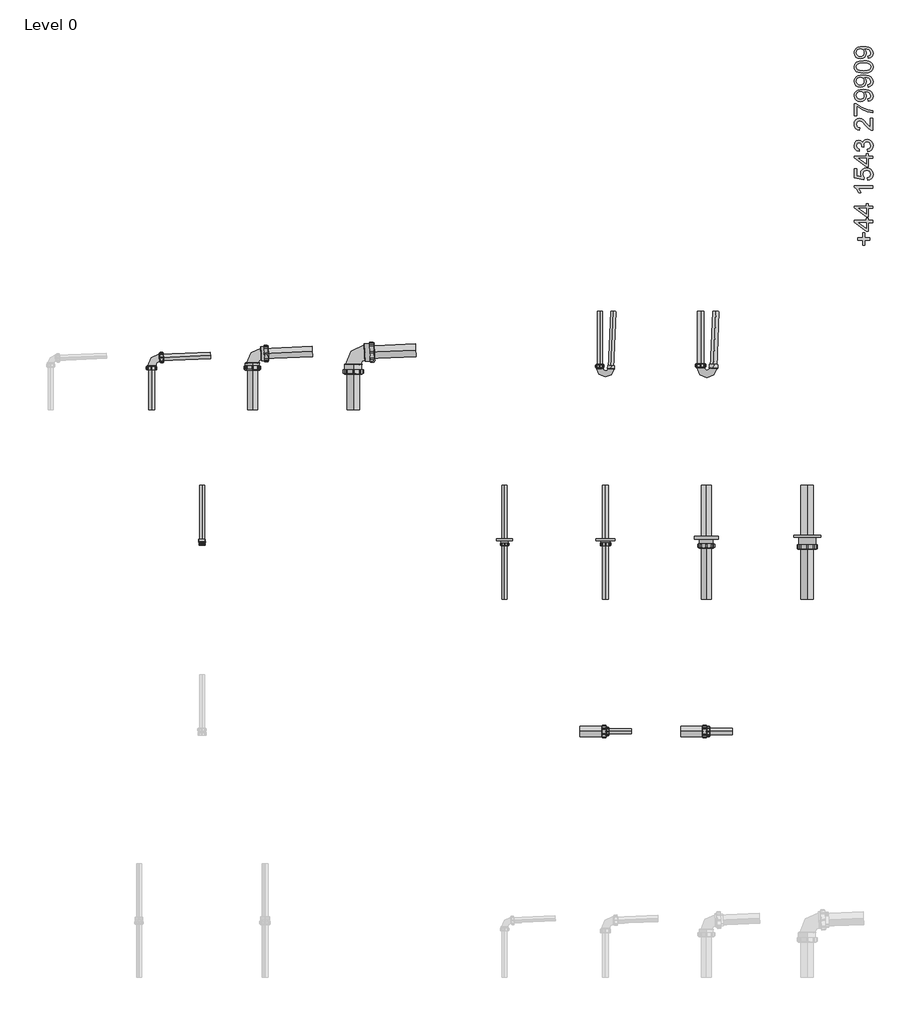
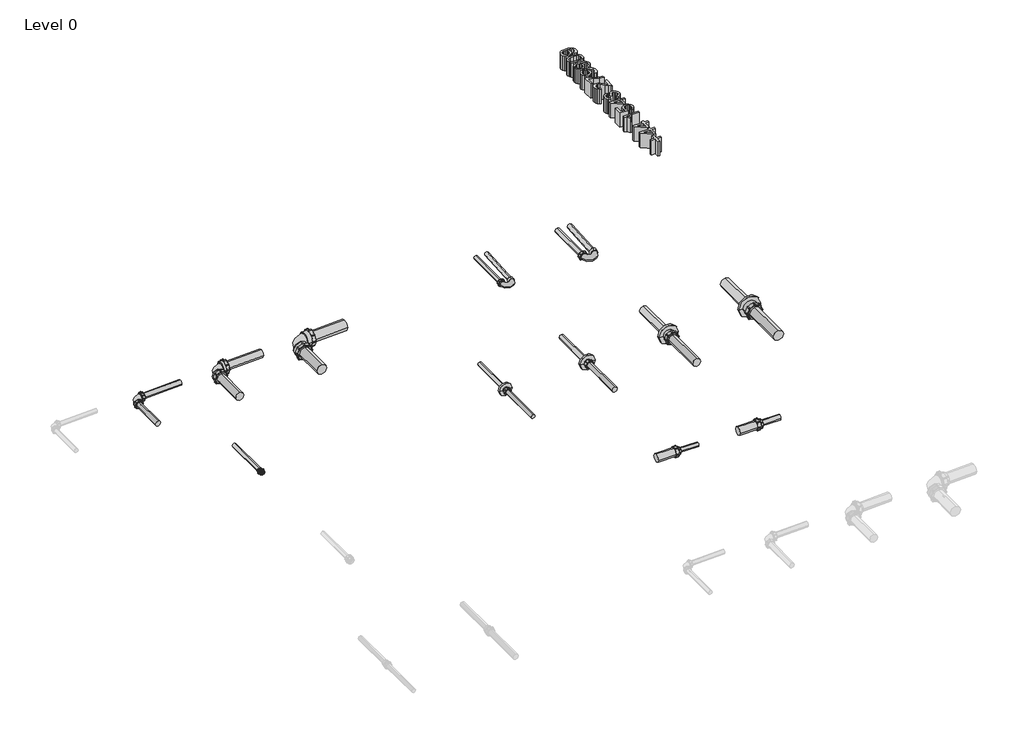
# One storey, part 5 of 5: 35 pipe fittings, 1 proxy.
"""IFC4 building model written with IfcOpenShell, lengths in millimetres."""

from ifc_helpers import new_model, si_unit, point, frame, frame_2d, origin, origin_with_axes, place, context, project, spatial, polyline, circle_curve, trimmed, segment, composite_curve, outline, extrude, transform, mapped, element, save
from components import pipe_fitting_40ecb241, w101_38mm_a402c0b6, w102_51mm_518020c9, w103_76mm_3b32ef74, w121_1_25inch_x_1_5inch_c2e79ad5, w182_2inch_51mm_1cf541ef, w183_3inch_76mm_d3d50443, w184_4inch_102mm_223b9221, w651_1_5inch_76mm_38mm_cad2a2d1, w652_2inch_76mm_51mm_e3760958, w701_1_5inch_38mm_534380e9, w702_2inch_51mm_fe70e554

model = new_model("IFC4")

# Units and contexts
model_context = context("Model", 3, world=origin())
ifc_project = project(units=[si_unit("LENGTHUNIT", "METRE", prefix="MILLI")], contexts=[model_context])

# Site, building, storey
site = spatial("IfcSite", under=ifc_project)
building = spatial("IfcBuilding", under=site)
storey = spatial("IfcBuildingStorey", under=building, Name="Level 0", Elevation=0.0)

# Proxy
placement = place(None, origin())
element("IfcBuildingElementProxy", 1, Name="100mm Arial", ObjectType="100mm Arial", at=placement, inside=storey, context=model_context, shape_type="SweptSolid", body=[
    extrude(outline(polyline([(-5961.0563059, 12559.4755371), (-6000.2870751, 12559.4755371), (-6000.2870751, 12520.2447679), (-6018.7486136, 12520.2447679), (-6018.7486136, 12559.4755371), (-6057.9793828, 12559.4755371), (-6057.9793828, 12577.9370756), (-6018.7486136, 12577.9370756), (-6018.7486136, 12617.1678448), (-6000.2870751, 12617.1678448), (-6000.2870751, 12577.9370756), (-5961.0563059, 12577.9370756), (-5961.0563059, 12559.4755371)])), origin_with_axes(), (0.0, 0.0, 1.0), 150.0),
    extrude(outline(polyline([(-5937.9793828, 12697.9370756), (-5972.5947675, 12697.9370756), (-5972.5947675, 12631.0139986), (-5991.0563059, 12631.0139986), (-6083.3639982, 12702.5524602), (-6083.3639982, 12716.398614), (-5991.0563059, 12716.398614), (-5991.0563059, 12734.8601525), (-5972.5947675, 12734.8601525), (-5972.5947675, 12716.398614), (-5937.9793828, 12716.398614), (-5937.9793828, 12697.9370756)]), holes=[polyline([(-5991.0563059, 12697.9370756), (-6048.0995751, 12697.9370756), (-5991.0563059, 12653.7303448), (-5991.0563059, 12697.9370756)])]), origin_with_axes(), (0.0, 0.0, 1.0), 150.0),
    extrude(outline(polyline([(-5937.9793828, 12811.0139986), (-5972.5947675, 12811.0139986), (-5972.5947675, 12744.0909217), (-5991.0563059, 12744.0909217), (-6083.3639982, 12815.6293833), (-6083.3639982, 12829.4755371), (-5991.0563059, 12829.4755371), (-5991.0563059, 12847.9370756), (-5972.5947675, 12847.9370756), (-5972.5947675, 12829.4755371), (-5937.9793828, 12829.4755371), (-5937.9793828, 12811.0139986)]), holes=[polyline([(-5991.0563059, 12811.0139986), (-6048.0995751, 12811.0139986), (-5991.0563059, 12766.8072679), (-5991.0563059, 12811.0139986)])]), origin_with_axes(), (0.0, 0.0, 1.0), 150.0),
    extrude(outline(polyline([(-5937.9793828, 12991.0139986), (-5937.9793828, 12972.5524602), (-6053.0755367, 12972.5524602), (-6040.617604, 12955.0644794), (-6031.2966905, 12935.6293833), (-6048.7486136, 12935.6293833), (-6066.0202482, 12962.6906813), (-6085.6716905, 12979.1149602), (-6085.6716905, 12991.0139986), (-5937.9793828, 12991.0139986)])), origin_with_axes(), (0.0, 0.0, 1.0), 150.0),
    extrude(outline(polyline([(-5977.2101521, 13034.8601525), (-5979.5178444, 13053.3216909), (-5968.4346112, 13056.711114), (-5960.4974117, 13062.6245756), (-5955.7242747, 13071.0350323), (-5954.133229, 13081.9154409), (-5956.3462699, 13095.148614), (-5962.9853925, 13105.0644794), (-5973.2843708, 13111.2573881), (-5986.476979, 13113.3216909), (-5998.898854, 13111.3880972), (-6008.4000559, 13105.5873159), (-6014.430705, 13095.8742751), (-6016.4409213, 13082.2039025), (-6013.2317867, 13065.9959698), (-6004.9024598, 13055.6293833), (-6007.2101521, 13037.1678448), (-6083.3639982, 13053.3216909), (-6083.3639982, 13124.8601525), (-6064.9024598, 13124.8601525), (-6064.9024598, 13068.2495756), (-6024.2293828, 13060.3529409), (-6032.2341905, 13073.5410419), (-6034.9024598, 13087.3601525), (-6031.5941665, 13104.609251), (-6021.6692867, 13118.9286621), (-6006.5430848, 13128.5695876), (-5987.6308251, 13131.7832294), (-5969.1692867, 13128.8895996), (-5953.3760175, 13120.2087102), (-5940.0977723, 13103.586114), (-5935.6716905, 13081.8433256), (-5938.515741, 13063.7108135), (-5947.0478925, 13049.2652006), (-5960.2765583, 13039.3628568), (-5977.2101521, 13034.8601525)])), origin_with_axes(), (0.0, 0.0, 1.0), 150.0),
    extrude(outline(polyline([(-5937.9793828, 13207.9370756), (-5972.5947675, 13207.9370756), (-5972.5947675, 13141.0139986), (-5991.0563059, 13141.0139986), (-6083.3639982, 13212.5524602), (-6083.3639982, 13226.398614), (-5991.0563059, 13226.398614), (-5991.0563059, 13244.8601525), (-5972.5947675, 13244.8601525), (-5972.5947675, 13226.398614), (-5937.9793828, 13226.398614), (-5937.9793828, 13207.9370756)]), holes=[polyline([(-5991.0563059, 13207.9370756), (-6048.0995751, 13207.9370756), (-5991.0563059, 13163.7303448), (-5991.0563059, 13207.9370756)])]), origin_with_axes(), (0.0, 0.0, 1.0), 150.0),
    extrude(outline(polyline([(-5977.2101521, 13261.0139986), (-5979.5178444, 13279.4755371), (-5967.9162819, 13283.6086501), (-5960.0827482, 13289.6618352), (-5955.6206088, 13297.9325683), (-5954.133229, 13308.7183256), (-5956.179503, 13321.3745756), (-5962.3183251, 13331.1462102), (-5971.476979, 13337.3932054), (-5982.5827482, 13339.4755371), (-5993.125116, 13337.4112342), (-6001.6752963, 13331.2183256), (-6007.3408612, 13321.8433256), (-6009.2293828, 13310.2327486), (-6007.2101521, 13297.2880371), (-6025.6716905, 13299.3433256), (-6025.4553444, 13302.3000563), (-6030.7558251, 13323.2495756), (-6037.4805848, 13330.226739), (-6047.0539021, 13332.5524602), (-6055.0271593, 13330.8667631), (-6061.4950078, 13325.8096717), (-6065.781366, 13318.0933256), (-6067.2101521, 13308.429864), (-6065.7678444, 13298.7483736), (-6061.4409213, 13290.8337102), (-6054.2293828, 13285.055465), (-6044.133229, 13281.7832294), (-6046.4409213, 13263.3216909), (-6063.0184453, 13268.7573881), (-6075.3952482, 13278.429864), (-6083.10258, 13291.6630371), (-6085.6716905, 13307.7808256), (-6080.6055848, 13330.0464506), (-6066.7594309, 13345.6233736), (-6048.1356328, 13351.0139986), (-6031.1164021, 13345.8938063), (-6018.8928444, 13330.7495756), (-6014.2233732, 13342.3060659), (-6006.2726521, 13350.8697679), (-5995.4733732, 13356.1702486), (-5982.258229, 13357.9370756), (-5964.2654405, 13354.4034217), (-5949.2293828, 13343.8024602), (-5939.0611136, 13327.8018592), (-5935.6716905, 13308.0692871), (-5938.5653203, 13290.2207294), (-5947.2462098, 13275.6894794), (-5960.524455, 13265.5843111), (-5977.2101521, 13261.0139986)])), origin_with_axes(), (0.0, 0.0, 1.0), 150.0),
    extrude(outline(polyline([(-5956.4409213, 13526.398614), (-5937.9793828, 13526.398614), (-5937.9793828, 13429.4755371), (-5950.7077482, 13431.4587102), (-5970.305104, 13442.6726525), (-5991.7053444, 13465.7856333), (-6022.4625559, 13497.6606333), (-6033.0635175, 13503.6371958), (-6043.3760175, 13505.6293833), (-6052.6203083, 13503.749876), (-6060.305104, 13498.1113544), (-6065.4838901, 13489.4439866), (-6067.2101521, 13478.4779409), (-6065.524455, 13466.9620155), (-6060.4673636, 13458.0152006), (-6052.4355126, 13452.2414626), (-6041.8255367, 13450.2447679), (-6044.133229, 13431.7832294), (-6061.9908011, 13436.2588905), (-6075.0346713, 13445.9358736), (-6083.0124357, 13460.3093712), (-6085.6716905, 13478.8745756), (-6082.7149598, 13497.5749962), (-6073.8447675, 13511.9214506), (-6060.5935655, 13521.0485539), (-6044.4938059, 13524.0909217), (-6026.9877963, 13520.8096717), (-6008.8868348, 13509.9022198), (-5983.5923636, 13483.4539025), (-5965.8339501, 13462.2159217), (-5956.4409213, 13453.8865948), (-5956.4409213, 13526.398614)])), origin_with_axes(), (0.0, 0.0, 1.0), 150.0),
    extrude(outline(polyline([(-6064.9024598, 13544.8601525), (-6083.3639982, 13544.8601525), (-6083.3639982, 13641.7832294), (-6068.4361136, 13641.7832294), (-6028.7185655, 13614.289239), (-5978.1115944, 13593.2495756), (-5937.9793828, 13586.398614), (-5937.9793828, 13567.9370756), (-5979.6260175, 13575.2748159), (-6026.6993348, 13595.4130371), (-6064.9024598, 13623.3216909), (-6064.9024598, 13544.8601525)])), origin_with_axes(), (0.0, 0.0, 1.0), 150.0),
    extrude(outline(polyline([(-5974.9024598, 13660.2447679), (-5977.2101521, 13678.7063063), (-5966.7308852, 13681.8613544), (-5959.5959694, 13686.9995756), (-5954.133229, 13702.7207294), (-5957.648854, 13717.6666429), (-5967.0418828, 13727.7988544), (-5983.0875559, 13733.8385179), (-6004.5058251, 13736.5067871), (-6008.1115944, 13736.398614), (-5994.1212098, 13721.632989), (-5988.7486136, 13701.3865948), (-5992.0298636, 13684.5521597), (-6001.8736136, 13670.539239), (-6017.0809453, 13661.0876164), (-6036.4529405, 13657.9370756), (-6056.4649598, 13661.2408616), (-6072.1500559, 13671.1522198), (-6082.2912819, 13686.0395395), (-6085.6716905, 13704.2712102), (-6083.742604, 13718.0407414), (-6077.9553444, 13730.5752967), (-6068.5983732, 13741.0590708), (-6055.9601521, 13748.6762583), (-6038.4902001, 13753.3141789), (-6014.6380367, 13754.8601525), (-5989.3480727, 13753.3186861), (-5969.8002963, 13748.6942871), (-5955.1112939, 13741.0275203), (-5944.3976521, 13730.3589506), (-5937.8531809, 13717.1483135), (-5935.6716905, 13701.8553448), (-5938.2453083, 13686.07109), (-5945.9661617, 13673.4779409), (-5958.3474718, 13664.6708496), (-5974.9024598, 13660.2447679)]), holes=[polyline([(-6036.8856328, 13736.398614), (-6049.3976521, 13734.4064265), (-6059.0250559, 13728.429864), (-6065.163878, 13719.1540227), (-6067.2101521, 13707.2639986), (-6065.0061256, 13694.9322679), (-6058.3940463, 13685.0524602), (-6048.2753564, 13678.5620756), (-6035.5514982, 13676.398614), (-6024.1437458, 13678.4448881), (-6015.0887578, 13684.5837102), (-6009.1798035, 13694.2201284), (-6007.2101521, 13706.7591909), (-6009.1798035, 13718.5545635), (-6015.0887578, 13728.0512583), (-6024.4772795, 13734.3117751), (-6036.8856328, 13736.398614)])]), origin_with_axes(), (0.0, 0.0, 1.0), 150.0),
    extrude(outline(polyline([(-5974.9024598, 13773.3216909), (-5977.2101521, 13791.7832294), (-5966.7308852, 13794.9382775), (-5959.5959694, 13800.0764986), (-5954.133229, 13815.7976525), (-5957.648854, 13830.7435659), (-5967.0418828, 13840.8757775), (-5983.0875559, 13846.9154409), (-6004.5058251, 13849.5837102), (-6008.1115944, 13849.4755371), (-5994.1212098, 13834.7099121), (-5988.7486136, 13814.4635179), (-5992.0298636, 13797.6290828), (-6001.8736136, 13783.6161621), (-6017.0809453, 13774.1645395), (-6036.4529405, 13771.0139986), (-6056.4649598, 13774.3177847), (-6072.1500559, 13784.2291429), (-6082.2912819, 13799.1164626), (-6085.6716905, 13817.3481333), (-6083.742604, 13831.1176645), (-6077.9553444, 13843.6522198), (-6068.5983732, 13854.1359938), (-6055.9601521, 13861.7531813), (-6038.4902001, 13866.391102), (-6014.6380367, 13867.9370756), (-5989.3480727, 13866.3956092), (-5969.8002963, 13861.7712102), (-5955.1112939, 13854.1044433), (-5944.3976521, 13843.4358736), (-5937.8531809, 13830.2252366), (-5935.6716905, 13814.9322679), (-5938.2453083, 13799.1480131), (-5945.9661617, 13786.554864), (-5958.3474718, 13777.7477727), (-5974.9024598, 13773.3216909)]), holes=[polyline([(-6036.8856328, 13849.4755371), (-6049.3976521, 13847.4833496), (-6059.0250559, 13841.5067871), (-6065.163878, 13832.2309458), (-6067.2101521, 13820.3409217), (-6065.0061256, 13808.0091909), (-6058.3940463, 13798.1293833), (-6048.2753564, 13791.6389986), (-6035.5514982, 13789.4755371), (-6024.1437458, 13791.5218111), (-6015.0887578, 13797.6606333), (-6009.1798035, 13807.2970515), (-6007.2101521, 13819.836114), (-6009.1798035, 13831.6314866), (-6015.0887578, 13841.1281813), (-6024.4772795, 13847.3886982), (-6036.8856328, 13849.4755371)])]), origin_with_axes(), (0.0, 0.0, 1.0), 150.0),
    extrude(outline(polyline([(-6010.6356328, 13884.0909217), (-6034.2759574, 13885.4475924), (-6053.1296232, 13889.5176044), (-6067.485092, 13896.2603929), (-6077.6308251, 13905.6353929), (-6083.6614742, 13917.7102126), (-6085.6716905, 13932.5524602), (-6080.9120751, 13954.1149602), (-6067.1921232, 13969.0067871), (-6045.3411617, 13977.6606333), (-6010.6356328, 13981.0139986), (-5987.1305247, 13979.6708496), (-5968.3219309, 13975.6414025), (-5953.9529405, 13968.9391789), (-5943.7666425, 13959.5777006), (-5937.6954285, 13947.4758376), (-5935.6716905, 13932.5524602), (-5939.1873155, 13913.3697679), (-5949.7341905, 13898.8024602), (-5974.7131569, 13887.7688063), (-6010.6356328, 13884.0909217)]), holes=[polyline([(-6010.6716905, 13902.5524602), (-5981.6317266, 13904.7159217), (-5964.8243348, 13911.2063063), (-5956.8060054, 13920.8697679), (-5954.133229, 13932.5524602), (-5956.8150199, 13944.2351525), (-5964.8603925, 13953.898614), (-5981.6767987, 13960.3889986), (-6010.6716905, 13962.5524602), (-6039.0581088, 13960.461114), (-6055.9962098, 13954.1870756), (-6064.4066665, 13944.5416429), (-6067.2101521, 13932.336114), (-6064.7402001, 13920.7796236), (-6057.3303444, 13911.4947679), (-6039.3375559, 13904.7880371), (-6010.6716905, 13902.5524602)])]), origin_with_axes(), (0.0, 0.0, 1.0), 150.0),
    extrude(outline(polyline([(-5974.9024598, 13999.4755371), (-5977.2101521, 14017.9370756), (-5966.7308852, 14021.0921236), (-5959.5959694, 14026.2303448), (-5954.133229, 14041.9514986), (-5957.648854, 14056.8974121), (-5967.0418828, 14067.0296236), (-5983.0875559, 14073.0692871), (-6004.5058251, 14075.7375563), (-6008.1115944, 14075.6293833), (-5994.1212098, 14060.8637583), (-5988.7486136, 14040.617364), (-5992.0298636, 14023.7829289), (-6001.8736136, 14009.7700083), (-6017.0809453, 14000.3183857), (-6036.4529405, 13997.1678448), (-6056.4649598, 14000.4716308), (-6072.1500559, 14010.382989), (-6082.2912819, 14025.2703087), (-6085.6716905, 14043.5019794), (-6083.742604, 14057.2715107), (-6077.9553444, 14069.8060659), (-6068.5983732, 14080.28984), (-6055.9601521, 14087.9070275), (-6038.4902001, 14092.5449482), (-6014.6380367, 14094.0909217), (-5989.3480727, 14092.5494554), (-5969.8002963, 14087.9250563), (-5955.1112939, 14080.2582895), (-5944.3976521, 14069.5897198), (-5937.8531809, 14056.3790828), (-5935.6716905, 14041.086114), (-5938.2453083, 14025.3018592), (-5945.9661617, 14012.7087102), (-5958.3474718, 14003.9016188), (-5974.9024598, 13999.4755371)]), holes=[polyline([(-6036.8856328, 14075.6293833), (-6049.3976521, 14073.6371958), (-6059.0250559, 14067.6606333), (-6065.163878, 14058.3847919), (-6067.2101521, 14046.4947679), (-6065.0061256, 14034.1630371), (-6058.3940463, 14024.2832294), (-6048.2753564, 14017.7928448), (-6035.5514982, 14015.6293833), (-6024.1437458, 14017.6756573), (-6015.0887578, 14023.8144794), (-6009.1798035, 14033.4508977), (-6007.2101521, 14045.9899602), (-6009.1798035, 14057.7853328), (-6015.0887578, 14067.2820275), (-6024.4772795, 14073.5425443), (-6036.8856328, 14075.6293833)])]), origin_with_axes(), (0.0, 0.0, 1.0), 150.0),
])

# Pipe fittings
element("IfcPipeFitting", 2, ObjectType="Vulcathene Mechanical Pipe", at=placement, inside=storey, context=model_context, shape_type="SweptSolid", body=[
    extrude(outline(composite_curve([segment(trimmed(circle_curve(frame_2d((0.0, -11657.9793828)), 25.0), [point((0.0, -11682.9793828))], [point((-25.0, -11657.9793828))], False, "CARTESIAN"), True, "CONTINUOUS"), segment(trimmed(circle_curve(frame_2d((0.0, -11657.9793828)), 25.0), [point((-25.0, -11657.9793828))], [point((0.0, -11632.9793828))], False, "CARTESIAN"), True, "CONTINUOUS"), segment(trimmed(circle_curve(frame_2d((0.0, -11657.9793828)), 25.0), [point((0.0, -11632.9793828))], [point((25.0, -11657.9793828))], False, "CARTESIAN"), True, "CONTINUOUS"), segment(trimmed(circle_curve(frame_2d((0.0, -11657.9793828)), 25.0), [point((25.0, -11657.9793828))], [point((0.0, -11682.9793828))], False, "CARTESIAN"), True, "CONTINUOUS")], self_intersect=False)), frame((0.0, 11214.6035033, 0.0), z_axis=(0.0, 1.0, 0.0), x_axis=(0.0, 0.0, 1.0)), (0.0, 0.0, 1.0), 345.7807587),
])
element("IfcPipeFitting", 3, ObjectType="Vulcathene Mechanical Pipe", at=placement, inside=storey, context=model_context, shape_type="SweptSolid", body=[
    extrude(outline(composite_curve([segment(trimmed(circle_curve(frame_2d((0.0, 25.0)), 25.0), [point((25.0, 25.0))], [point((0.0, 0.0))], False, "CARTESIAN"), True, "CONTINUOUS"), segment(trimmed(circle_curve(frame_2d((0.0, 25.0)), 25.0), [point((0.0, 0.0))], [point((-25.0000001, 25.0))], False, "CARTESIAN"), True, "CONTINUOUS"), segment(trimmed(circle_curve(frame_2d((0.0, 25.0)), 25.0), [point((-25.0000001, 25.0))], [point((0.0, 50.0))], False, "CARTESIAN"), True, "CONTINUOUS"), segment(trimmed(circle_curve(frame_2d((0.0, 25.0)), 25.0), [point((0.0, 50.0))], [point((25.0, 25.0))], False, "CARTESIAN"), True, "CONTINUOUS")], self_intersect=False)), frame((-11592.658587, 11628.6192555, 25.0), z_axis=(0.9990482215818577, 0.043619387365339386, 0.0), x_axis=(0.043619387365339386, -0.9990482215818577, 0.0)), (0.0, 0.0, 1.0), 401.6558449),
])
element("IfcPipeFitting", 4, ObjectType="Vulcathene Mechanical Pipe", at=placement, inside=storey, context=model_context, shape_type="SweptSolid", body=[
    extrude(outline(composite_curve([segment(trimmed(circle_curve(frame_2d((0.0, -10857.9793828)), 40.0), [point((0.0, -10897.9793828))], [point((-40.0, -10857.9793828))], False, "CARTESIAN"), True, "CONTINUOUS"), segment(trimmed(circle_curve(frame_2d((0.0, -10857.9793828)), 40.0), [point((-40.0, -10857.9793828))], [point((0.0, -10817.9793828))], False, "CARTESIAN"), True, "CONTINUOUS"), segment(trimmed(circle_curve(frame_2d((0.0, -10857.9793828)), 40.0), [point((0.0, -10817.9793828))], [point((40.0, -10857.9793828))], False, "CARTESIAN"), True, "CONTINUOUS"), segment(trimmed(circle_curve(frame_2d((0.0, -10857.9793828)), 40.0), [point((40.0, -10857.9793828))], [point((0.0, -10897.9793828))], False, "CARTESIAN"), True, "CONTINUOUS")], self_intersect=False)), frame((0.0, 11214.6035033, 0.0), z_axis=(0.0, 1.0, 0.0), x_axis=(0.0, 0.0, 1.0)), (0.0, 0.0, 1.0), 369.0340632),
])
element("IfcPipeFitting", 5, ObjectType="Vulcathene Mechanical Pipe", at=placement, inside=storey, context=model_context, shape_type="SweptSolid", body=[
    extrude(outline(composite_curve([segment(trimmed(circle_curve(frame_2d((0.0, 40.0)), 40.0), [point((40.0, 40.0))], [point((0.0, 0.0))], False, "CARTESIAN"), True, "CONTINUOUS"), segment(trimmed(circle_curve(frame_2d((0.0, 40.0)), 40.0), [point((0.0, 0.0))], [point((-40.0, 40.0))], False, "CARTESIAN"), True, "CONTINUOUS"), segment(trimmed(circle_curve(frame_2d((0.0, 40.0)), 40.0), [point((-40.0, 40.0))], [point((0.0, 80.0))], False, "CARTESIAN"), True, "CONTINUOUS"), segment(trimmed(circle_curve(frame_2d((0.0, 40.0)), 40.0), [point((0.0, 80.0))], [point((40.0, 40.0))], False, "CARTESIAN"), True, "CONTINUOUS")], self_intersect=False)), frame((-10785.4857324, 11659.3654217, 40.0), z_axis=(0.9990482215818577, 0.043619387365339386, 0.0), x_axis=(0.043619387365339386, -0.9990482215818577, 0.0)), (0.0, 0.0, 1.0), 401.8376726),
])
element("IfcPipeFitting", 6, ObjectType="Vulcathene Mechanical Pipe", at=placement, inside=storey, context=model_context, shape_type="SweptSolid", body=[
    extrude(outline(composite_curve([segment(trimmed(circle_curve(frame_2d((0.0, -10057.9793828)), 50.0), [point((0.0, -10107.9793828))], [point((-50.0, -10057.9793828))], False, "CARTESIAN"), True, "CONTINUOUS"), segment(trimmed(circle_curve(frame_2d((0.0, -10057.9793828)), 50.0), [point((-50.0, -10057.9793828))], [point((0.0, -10007.9793828))], False, "CARTESIAN"), True, "CONTINUOUS"), segment(trimmed(circle_curve(frame_2d((0.0, -10057.9793828)), 50.0), [point((0.0, -10007.9793828))], [point((50.0, -10057.9793828))], False, "CARTESIAN"), True, "CONTINUOUS"), segment(trimmed(circle_curve(frame_2d((0.0, -10057.9793828)), 50.0), [point((50.0, -10057.9793828))], [point((0.0, -10107.9793828))], False, "CARTESIAN"), True, "CONTINUOUS")], self_intersect=False)), frame((0.0, 11214.6035033, 0.0), z_axis=(0.0, 1.0, 0.0), x_axis=(0.0, 0.0, 1.0)), (0.0, 0.0, 1.0), 356.9175998),
])
element("IfcPipeFitting", 7, ObjectType="Vulcathene Mechanical Pipe", at=placement, inside=storey, context=model_context, shape_type="SweptSolid", body=[
    extrude(outline(composite_curve([segment(trimmed(circle_curve(frame_2d((0.0, 50.0)), 50.0), [point((50.0, 50.0))], [point((0.0, 0.0))], False, "CARTESIAN"), True, "CONTINUOUS"), segment(trimmed(circle_curve(frame_2d((0.0, 50.0)), 50.0), [point((0.0, 0.0))], [point((-50.0, 50.0))], False, "CARTESIAN"), True, "CONTINUOUS"), segment(trimmed(circle_curve(frame_2d((0.0, 50.0)), 50.0), [point((-50.0, 50.0))], [point((0.0, 100.0))], False, "CARTESIAN"), True, "CONTINUOUS"), segment(trimmed(circle_curve(frame_2d((0.0, 50.0)), 50.0), [point((0.0, 100.0))], [point((50.0, 50.0))], False, "CARTESIAN"), True, "CONTINUOUS")], self_intersect=False)), frame((-9964.636635, 11669.0282095, 50.0), z_axis=(0.9990482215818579, 0.04361938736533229, 0.0), x_axis=(0.04361938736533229, -0.9990482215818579, 0.0)), (0.0, 0.0, 1.0), 402.3661854),
])
element("IfcPipeFitting", 8, ObjectType="Vulcathene Mechanical Pipe", at=placement, inside=storey, context=model_context, shape_type="SweptSolid", body=[
    extrude(outline(composite_curve([segment(trimmed(circle_curve(frame_2d((0.0, -11257.9793828)), 20.0), [point((0.0, -11237.9793828))], [point((20.0, -11257.9793828))], False, "CARTESIAN"), True, "CONTINUOUS"), segment(trimmed(circle_curve(frame_2d((0.0, -11257.9793828)), 20.0), [point((20.0, -11257.9793828))], [point((0.0, -11277.9793828))], False, "CARTESIAN"), True, "CONTINUOUS"), segment(trimmed(circle_curve(frame_2d((0.0, -11257.9793828)), 20.0), [point((0.0, -11277.9793828))], [point((-20.0, -11257.9793828))], False, "CARTESIAN"), True, "CONTINUOUS"), segment(trimmed(circle_curve(frame_2d((0.0, -11257.9793828)), 20.0), [point((-20.0, -11257.9793828))], [point((0.0, -11237.9793828))], False, "CARTESIAN"), True, "CONTINUOUS")], self_intersect=False)), frame((0.0, 10186.6035033, 0.0), z_axis=(0.0, 1.0, 0.0), x_axis=(0.0, 0.0, 1.0)), (0.0, 0.0, 1.0), 428.0),
])
element("IfcPipeFitting", 9, ObjectType="Vulcathene Mechanical Pipe", at=placement, inside=storey, context=model_context, shape_type="SweptSolid", body=[
    extrude(outline(composite_curve([segment(trimmed(circle_curve(frame_2d((0.0, -8102.9793828)), 20.0), [point((0.0, -8082.9793828))], [point((20.0, -8102.9793828))], False, "CARTESIAN"), True, "CONTINUOUS"), segment(trimmed(circle_curve(frame_2d((0.0, -8102.9793828)), 20.0), [point((20.0, -8102.9793828))], [point((0.0, -8122.9793828))], False, "CARTESIAN"), True, "CONTINUOUS"), segment(trimmed(circle_curve(frame_2d((0.0, -8102.9793828)), 20.0), [point((0.0, -8122.9793828))], [point((-20.0, -8102.9793828))], False, "CARTESIAN"), True, "CONTINUOUS"), segment(trimmed(circle_curve(frame_2d((0.0, -8102.9793828)), 20.0), [point((-20.0, -8102.9793828))], [point((0.0, -8082.9793828))], False, "CARTESIAN"), True, "CONTINUOUS")], self_intersect=False)), frame((0.0, 11544.602162, 0.0), z_axis=(0.0, 1.0, 0.0), x_axis=(0.0, 0.0, 1.0)), (0.0, 0.0, 1.0), 450.0013412),
])
element("IfcPipeFitting", 10, ObjectType="Vulcathene Mechanical Pipe", at=placement, inside=storey, context=model_context, shape_type="SweptSolid", body=[
    extrude(outline(composite_curve([segment(trimmed(circle_curve(frame_2d((0.0, -7302.9793828)), 25.0), [point((0.0, -7277.9793828))], [point((25.0, -7302.9793828))], False, "CARTESIAN"), True, "CONTINUOUS"), segment(trimmed(circle_curve(frame_2d((0.0, -7302.9793828)), 25.0), [point((25.0, -7302.9793828))], [point((0.0, -7327.9793828))], False, "CARTESIAN"), True, "CONTINUOUS"), segment(trimmed(circle_curve(frame_2d((0.0, -7302.9793828)), 25.0), [point((0.0, -7327.9793828))], [point((-25.0, -7302.9793828))], False, "CARTESIAN"), True, "CONTINUOUS"), segment(trimmed(circle_curve(frame_2d((0.0, -7302.9793828)), 25.0), [point((-25.0, -7302.9793828))], [point((0.0, -7277.9793828))], False, "CARTESIAN"), True, "CONTINUOUS")], self_intersect=False)), frame((0.0, 11550.374828, 0.0), z_axis=(0.0, 1.0, 0.0), x_axis=(0.0, 0.0, 1.0)), (0.0, 0.0, 1.0), 444.2286753),
])
element("IfcPipeFitting", 11, ObjectType="Vulcathene Mechanical Pipe", at=placement, inside=storey, context=model_context, shape_type="SweptSolid", body=[
    extrude(outline(composite_curve([segment(trimmed(circle_curve(frame_2d((0.0, 20.0)), 20.0), [point((20.0000001, 20.0))], [point((0.0, 0.0))], False, "CARTESIAN"), True, "CONTINUOUS"), segment(trimmed(circle_curve(frame_2d((0.0, 20.0)), 20.0), [point((0.0, 0.0))], [point((-20.0, 20.0))], False, "CARTESIAN"), True, "CONTINUOUS"), segment(trimmed(circle_curve(frame_2d((0.0, 20.0)), 20.0), [point((-20.0, 20.0))], [point((0.0, 40.0))], False, "CARTESIAN"), True, "CONTINUOUS"), segment(trimmed(circle_curve(frame_2d((0.0, 20.0)), 20.0), [point((0.0, 40.0))], [point((20.0000001, 20.0))], False, "CARTESIAN"), True, "CONTINUOUS")], self_intersect=False)), frame((-8013.0222129, 11542.6392896, 20.0), z_axis=(0.043619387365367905, 0.9990482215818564, 0.0), x_axis=(0.9990482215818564, -0.043619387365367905, 0.0)), (0.0, 0.0, 1.0), 452.3947933),
])
element("IfcPipeFitting", 12, ObjectType="Vulcathene Mechanical Pipe", at=placement, inside=storey, context=model_context, shape_type="SweptSolid", body=[
    extrude(outline(composite_curve([segment(trimmed(circle_curve(frame_2d((0.0, 25.0)), 25.0), [point((25.0000001, 25.0))], [point((0.0, 0.0))], False, "CARTESIAN"), True, "CONTINUOUS"), segment(trimmed(circle_curve(frame_2d((0.0, 25.0)), 25.0), [point((0.0, 0.0))], [point((-25.0, 25.0))], False, "CARTESIAN"), True, "CONTINUOUS"), segment(trimmed(circle_curve(frame_2d((0.0, 25.0)), 25.0), [point((-25.0, 25.0))], [point((0.0, 50.0))], False, "CARTESIAN"), True, "CONTINUOUS"), segment(trimmed(circle_curve(frame_2d((0.0, 25.0)), 25.0), [point((0.0, 50.0))], [point((25.0000001, 25.0))], False, "CARTESIAN"), True, "CONTINUOUS")], self_intersect=False)), frame((-7201.2278284, 11548.1546011, 25.0), z_axis=(0.043619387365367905, 0.9990482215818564, 0.0), x_axis=(0.9990482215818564, -0.043619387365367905, 0.0)), (0.0, 0.0, 1.0), 446.8742274),
])
element("IfcPipeFitting", 13, ObjectType="Vulcathene Mechanical Pipe", at=placement, inside=storey, context=model_context, shape_type="SweptSolid", body=[
    extrude(outline(composite_curve([segment(trimmed(circle_curve(frame_2d((0.0, -8857.9793828)), 20.0), [point((0.0, -8837.9793828))], [point((20.0, -8857.9793828))], False, "CARTESIAN"), True, "CONTINUOUS"), segment(trimmed(circle_curve(frame_2d((0.0, -8857.9793828)), 20.0), [point((20.0, -8857.9793828))], [point((0.0, -8877.9793828))], False, "CARTESIAN"), True, "CONTINUOUS"), segment(trimmed(circle_curve(frame_2d((0.0, -8857.9793828)), 20.0), [point((0.0, -8877.9793828))], [point((-20.0, -8857.9793828))], False, "CARTESIAN"), True, "CONTINUOUS"), segment(trimmed(circle_curve(frame_2d((0.0, -8857.9793828)), 20.0), [point((-20.0, -8857.9793828))], [point((0.0, -8837.9793828))], False, "CARTESIAN"), True, "CONTINUOUS")], self_intersect=False)), frame((0.0, 10192.852162, 0.0), z_axis=(0.0, 1.0, 0.0), x_axis=(0.0, 0.0, 1.0)), (0.0, 0.0, 1.0), 421.7513412),
])
element("IfcPipeFitting", 14, ObjectType="Vulcathene Mechanical Pipe", at=placement, inside=storey, context=model_context, shape_type="SweptSolid", body=[
    extrude(outline(composite_curve([segment(trimmed(circle_curve(frame_2d((0.0, -8857.9793828)), 20.0), [point((0.0, -8877.9793828))], [point((-20.0, -8857.9793828))], False, "CARTESIAN"), True, "CONTINUOUS"), segment(trimmed(circle_curve(frame_2d((0.0, -8857.9793828)), 20.0), [point((-20.0, -8857.9793828))], [point((0.0, -8837.9793828))], False, "CARTESIAN"), True, "CONTINUOUS"), segment(trimmed(circle_curve(frame_2d((0.0, -8857.9793828)), 20.0), [point((0.0, -8837.9793828))], [point((20.0, -8857.9793828))], False, "CARTESIAN"), True, "CONTINUOUS"), segment(trimmed(circle_curve(frame_2d((0.0, -8857.9793828)), 20.0), [point((20.0, -8857.9793828))], [point((0.0, -8877.9793828))], False, "CARTESIAN"), True, "CONTINUOUS")], self_intersect=False)), frame((0.0, 9714.6035033, 0.0), z_axis=(0.0, 1.0, 0.0), x_axis=(0.0, 0.0, 1.0)), (0.0, 0.0, 1.0), 451.9486588),
])
element("IfcPipeFitting", 15, ObjectType="Vulcathene Mechanical Pipe", at=placement, inside=storey, context=model_context, shape_type="SweptSolid", body=[
    extrude(outline(composite_curve([segment(trimmed(circle_curve(frame_2d((0.0, -8057.9793828)), 25.0), [point((0.0, -8032.9793828))], [point((25.0, -8057.9793828))], False, "CARTESIAN"), True, "CONTINUOUS"), segment(trimmed(circle_curve(frame_2d((0.0, -8057.9793828)), 25.0), [point((25.0, -8057.9793828))], [point((0.0, -8082.9793828))], False, "CARTESIAN"), True, "CONTINUOUS"), segment(trimmed(circle_curve(frame_2d((0.0, -8057.9793828)), 25.0), [point((0.0, -8082.9793828))], [point((-25.0, -8057.9793828))], False, "CARTESIAN"), True, "CONTINUOUS"), segment(trimmed(circle_curve(frame_2d((0.0, -8057.9793828)), 25.0), [point((-25.0, -8057.9793828))], [point((0.0, -8032.9793828))], False, "CARTESIAN"), True, "CONTINUOUS")], self_intersect=False)), frame((0.0, 10193.102162, 0.0), z_axis=(0.0, 1.0, 0.0), x_axis=(0.0, 0.0, 1.0)), (0.0, 0.0, 1.0), 421.5013412),
])
element("IfcPipeFitting", 16, ObjectType="Vulcathene Mechanical Pipe", at=placement, inside=storey, context=model_context, shape_type="SweptSolid", body=[
    extrude(outline(composite_curve([segment(trimmed(circle_curve(frame_2d((0.0, -8057.9793828)), 25.0), [point((0.0, -8082.9793828))], [point((-25.0, -8057.9793828))], False, "CARTESIAN"), True, "CONTINUOUS"), segment(trimmed(circle_curve(frame_2d((0.0, -8057.9793828)), 25.0), [point((-25.0, -8057.9793828))], [point((0.0, -8032.9793828))], False, "CARTESIAN"), True, "CONTINUOUS"), segment(trimmed(circle_curve(frame_2d((0.0, -8057.9793828)), 25.0), [point((0.0, -8032.9793828))], [point((25.0, -8057.9793828))], False, "CARTESIAN"), True, "CONTINUOUS"), segment(trimmed(circle_curve(frame_2d((0.0, -8057.9793828)), 25.0), [point((25.0, -8057.9793828))], [point((0.0, -8082.9793828))], False, "CARTESIAN"), True, "CONTINUOUS")], self_intersect=False)), frame((0.0, 9714.6035033, 0.0), z_axis=(0.0, 1.0, 0.0), x_axis=(0.0, 0.0, 1.0)), (0.0, 0.0, 1.0), 454.5986588),
])
element("IfcPipeFitting", 17, ObjectType="Vulcathene Mechanical Pipe", at=placement, inside=storey, context=model_context, shape_type="SweptSolid", body=[
    extrude(outline(composite_curve([segment(trimmed(circle_curve(frame_2d((0.0, -7257.9793828)), 40.0), [point((0.0, -7217.9793828))], [point((40.0, -7257.9793828))], False, "CARTESIAN"), True, "CONTINUOUS"), segment(trimmed(circle_curve(frame_2d((0.0, -7257.9793828)), 40.0), [point((40.0, -7257.9793828))], [point((0.0, -7297.9793828))], False, "CARTESIAN"), True, "CONTINUOUS"), segment(trimmed(circle_curve(frame_2d((0.0, -7257.9793828)), 40.0), [point((0.0, -7297.9793828))], [point((-40.0, -7257.9793828))], False, "CARTESIAN"), True, "CONTINUOUS"), segment(trimmed(circle_curve(frame_2d((0.0, -7257.9793828)), 40.0), [point((-40.0, -7257.9793828))], [point((0.0, -7217.9793828))], False, "CARTESIAN"), True, "CONTINUOUS")], self_intersect=False)), frame((0.0, 10211.502162, 0.0), z_axis=(0.0, 1.0, 0.0), x_axis=(0.0, 0.0, 1.0)), (0.0, 0.0, 1.0), 403.1013412),
])
element("IfcPipeFitting", 18, ObjectType="Vulcathene Mechanical Pipe", at=placement, inside=storey, context=model_context, shape_type="SweptSolid", body=[
    extrude(outline(composite_curve([segment(trimmed(circle_curve(frame_2d((0.0, -7257.9793828)), 40.0), [point((0.0, -7297.9793828))], [point((-40.0, -7257.9793828))], False, "CARTESIAN"), True, "CONTINUOUS"), segment(trimmed(circle_curve(frame_2d((0.0, -7257.9793828)), 40.0), [point((-40.0, -7257.9793828))], [point((0.0, -7217.9793828))], False, "CARTESIAN"), True, "CONTINUOUS"), segment(trimmed(circle_curve(frame_2d((0.0, -7257.9793828)), 40.0), [point((0.0, -7217.9793828))], [point((40.0, -7257.9793828))], False, "CARTESIAN"), True, "CONTINUOUS"), segment(trimmed(circle_curve(frame_2d((0.0, -7257.9793828)), 40.0), [point((40.0, -7257.9793828))], [point((0.0, -7297.9793828))], False, "CARTESIAN"), True, "CONTINUOUS")], self_intersect=False)), frame((0.0, 9714.6035033, 0.0), z_axis=(0.0, 1.0, 0.0), x_axis=(0.0, 0.0, 1.0)), (0.0, 0.0, 1.0), 455.9986588),
])
element("IfcPipeFitting", 19, ObjectType="Vulcathene Mechanical Pipe", at=placement, inside=storey, context=model_context, shape_type="SweptSolid", body=[
    extrude(outline(composite_curve([segment(trimmed(circle_curve(frame_2d((0.0, -6457.9793828)), 50.0), [point((0.0, -6407.9793828))], [point((50.0, -6457.9793828))], False, "CARTESIAN"), True, "CONTINUOUS"), segment(trimmed(circle_curve(frame_2d((0.0, -6457.9793828)), 50.0), [point((50.0, -6457.9793828))], [point((0.0, -6507.9793828))], False, "CARTESIAN"), True, "CONTINUOUS"), segment(trimmed(circle_curve(frame_2d((0.0, -6457.9793828)), 50.0), [point((0.0, -6507.9793828))], [point((-50.0, -6457.9793828))], False, "CARTESIAN"), True, "CONTINUOUS"), segment(trimmed(circle_curve(frame_2d((0.0, -6457.9793828)), 50.0), [point((-50.0, -6457.9793828))], [point((0.0, -6407.9793828))], False, "CARTESIAN"), True, "CONTINUOUS")], self_intersect=False)), frame((0.0, 10221.102162, 0.0), z_axis=(0.0, 1.0, 0.0), x_axis=(0.0, 0.0, 1.0)), (0.0, 0.0, 1.0), 393.5013412),
])
element("IfcPipeFitting", 20, ObjectType="Vulcathene Mechanical Pipe", at=placement, inside=storey, context=model_context, shape_type="SweptSolid", body=[
    extrude(outline(composite_curve([segment(trimmed(circle_curve(frame_2d((0.0, -6457.9793828)), 50.0), [point((0.0, -6507.9793828))], [point((-50.0, -6457.9793828))], False, "CARTESIAN"), True, "CONTINUOUS"), segment(trimmed(circle_curve(frame_2d((0.0, -6457.9793828)), 50.0), [point((-50.0, -6457.9793828))], [point((0.0, -6407.9793828))], False, "CARTESIAN"), True, "CONTINUOUS"), segment(trimmed(circle_curve(frame_2d((0.0, -6457.9793828)), 50.0), [point((0.0, -6407.9793828))], [point((50.0, -6457.9793828))], False, "CARTESIAN"), True, "CONTINUOUS"), segment(trimmed(circle_curve(frame_2d((0.0, -6457.9793828)), 50.0), [point((50.0, -6457.9793828))], [point((0.0, -6507.9793828))], False, "CARTESIAN"), True, "CONTINUOUS")], self_intersect=False)), frame((0.0, 9714.6035033, 0.0), z_axis=(0.0, 1.0, 0.0), x_axis=(0.0, 0.0, 1.0)), (0.0, 0.0, 1.0), 465.4986588),
])
element("IfcPipeFitting", 21, ObjectType="Vulcathene Mechanical Pipe", at=placement, inside=storey, context=model_context, shape_type="SweptSolid", body=[
    extrude(outline(composite_curve([segment(trimmed(circle_curve(frame_2d((8664.602162, 0.0)), 40.0), [point((8624.602162, 0.0))], [point((8664.602162, 40.0))], False, "CARTESIAN"), True, "CONTINUOUS"), segment(trimmed(circle_curve(frame_2d((8664.602162, 0.0)), 40.0), [point((8664.602162, 40.0))], [point((8704.602162, 0.0))], False, "CARTESIAN"), True, "CONTINUOUS"), segment(trimmed(circle_curve(frame_2d((8664.602162, 0.0)), 40.0), [point((8704.602162, 0.0))], [point((8664.602162, -40.0))], False, "CARTESIAN"), True, "CONTINUOUS"), segment(trimmed(circle_curve(frame_2d((8664.602162, 0.0)), 40.0), [point((8664.602162, -40.0))], [point((8624.602162, 0.0))], False, "CARTESIAN"), True, "CONTINUOUS")], self_intersect=False)), frame((-8258.7043828, 0.0, 0.0), z_axis=(1.0, 0.0, 0.0), x_axis=(0.0, 1.0, 0.0)), (0.0, 0.0, 1.0), 200.0),
])
element("IfcPipeFitting", 22, ObjectType="Vulcathene Mechanical Pipe", at=placement, inside=storey, context=model_context, shape_type="SweptSolid", body=[
    extrude(outline(composite_curve([segment(trimmed(circle_curve(frame_2d((8664.602162, 0.0)), 20.0), [point((8644.602162, 0.0))], [point((8664.602162, 20.0))], False, "CARTESIAN"), True, "CONTINUOUS"), segment(trimmed(circle_curve(frame_2d((8664.602162, 0.0)), 20.0), [point((8664.602162, 20.0))], [point((8684.602162, 0.0))], False, "CARTESIAN"), True, "CONTINUOUS"), segment(trimmed(circle_curve(frame_2d((8664.602162, 0.0)), 20.0), [point((8684.602162, 0.0))], [point((8664.602162, -20.0))], False, "CARTESIAN"), True, "CONTINUOUS"), segment(trimmed(circle_curve(frame_2d((8664.602162, 0.0)), 20.0), [point((8664.602162, -20.0))], [point((8644.602162, 0.0))], False, "CARTESIAN"), True, "CONTINUOUS")], self_intersect=False)), frame((-8052.3543828, 0.0, 0.0), z_axis=(1.0, 0.0, 0.0), x_axis=(0.0, 1.0, 0.0)), (0.0, 0.0, 1.0), 200.0),
])
element("IfcPipeFitting", 23, ObjectType="Vulcathene Mechanical Pipe", at=placement, inside=storey, context=model_context, shape_type="SweptSolid", body=[
    extrude(outline(composite_curve([segment(trimmed(circle_curve(frame_2d((8664.602162, 0.0)), 40.0), [point((8624.602162, 0.0))], [point((8664.602162, 40.0))], False, "CARTESIAN"), True, "CONTINUOUS"), segment(trimmed(circle_curve(frame_2d((8664.602162, 0.0)), 40.0), [point((8664.602162, 40.0))], [point((8704.602162, 0.0))], False, "CARTESIAN"), True, "CONTINUOUS"), segment(trimmed(circle_curve(frame_2d((8664.602162, 0.0)), 40.0), [point((8704.602162, 0.0))], [point((8664.602162, -40.0))], False, "CARTESIAN"), True, "CONTINUOUS"), segment(trimmed(circle_curve(frame_2d((8664.602162, 0.0)), 40.0), [point((8664.602162, -40.0))], [point((8624.602162, 0.0))], False, "CARTESIAN"), True, "CONTINUOUS")], self_intersect=False)), frame((-7459.8543828, 0.0, 0.0), z_axis=(1.0, 0.0, 0.0), x_axis=(0.0, 1.0, 0.0)), (0.0, 0.0, 1.0), 200.0),
])
element("IfcPipeFitting", 24, ObjectType="Vulcathene Mechanical Pipe", at=placement, inside=storey, context=model_context, shape_type="SweptSolid", body=[
    extrude(outline(composite_curve([segment(trimmed(circle_curve(frame_2d((8664.602162, 0.0)), 25.0), [point((8639.602162, 0.0))], [point((8664.602162, 25.0))], False, "CARTESIAN"), True, "CONTINUOUS"), segment(trimmed(circle_curve(frame_2d((8664.602162, 0.0)), 25.0), [point((8664.602162, 25.0))], [point((8689.602162, 0.0))], False, "CARTESIAN"), True, "CONTINUOUS"), segment(trimmed(circle_curve(frame_2d((8664.602162, 0.0)), 25.0), [point((8689.602162, 0.0))], [point((8664.602162, -25.0))], False, "CARTESIAN"), True, "CONTINUOUS"), segment(trimmed(circle_curve(frame_2d((8664.602162, 0.0)), 25.0), [point((8664.602162, -25.0))], [point((8639.602162, 0.0))], False, "CARTESIAN"), True, "CONTINUOUS")], self_intersect=False)), frame((-7253.5043828, 0.0, 0.0), z_axis=(1.0, 0.0, 0.0), x_axis=(0.0, 1.0, 0.0)), (0.0, 0.0, 1.0), 200.0),
])
pipe_fitting_shape = pipe_fitting_40ecb241(model_context)
element("IfcPipeFitting", 25, ObjectType="Durapipe_PipeFitting_VulcatheneMechanical_Flange_(L364-L40) : W104 102mm", at=placement, inside=storey, context=model_context, shape_type="MappedRepresentation", body=[
    mapped(pipe_fitting_shape, transform((-6457.9793828, 10164.602162, 0.0), x_axis=(0.0, -1.0000000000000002, 0.0), y_axis=(1.0000000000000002, 0.0, 0.0), z_axis=(0.0, 0.0, 1.0))),
])
w101_38mm_shape = w101_38mm_a402c0b6(model_context)
element("IfcPipeFitting", 26, ObjectType="Durapipe_PipeFitting_VulcatheneMechanical_Flange_(L364-L40) : W101 38mm", at=placement, inside=storey, context=model_context, shape_type="MappedRepresentation", body=[
    mapped(w101_38mm_shape, transform((-8857.9793828, 10164.602162, 0.0), x_axis=(0.0, -1.0000000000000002, 0.0), y_axis=(1.0000000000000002, 0.0, 0.0), z_axis=(0.0, 0.0, 1.0))),
])
w102_51mm_shape = w102_51mm_518020c9(model_context)
element("IfcPipeFitting", 27, ObjectType="Durapipe_PipeFitting_VulcatheneMechanical_Flange_(L364-L40) : W102 51mm", at=placement, inside=storey, context=model_context, shape_type="MappedRepresentation", body=[
    mapped(w102_51mm_shape, transform((-8057.9793828, 10164.602162, 0.0), x_axis=(0.0, -1.0000000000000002, 0.0), y_axis=(1.0000000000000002, 0.0, 0.0), z_axis=(0.0, 0.0, 1.0))),
])
w103_76mm_shape = w103_76mm_3b32ef74(model_context)
element("IfcPipeFitting", 28, ObjectType="Durapipe_PipeFitting_VulcatheneMechanical_Flange_(L364-L40) : W103 76mm", at=placement, inside=storey, context=model_context, shape_type="MappedRepresentation", body=[
    mapped(w103_76mm_shape, transform((-7257.9793828, 10164.602162, 0.0), x_axis=(0.0, -1.0000000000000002, 0.0), y_axis=(1.0000000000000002, 0.0, 0.0), z_axis=(0.0, 0.0, 1.0))),
])
w121_1_25inch_x_1_5inch_shape = w121_1_25inch_x_1_5inch_c2e79ad5(model_context)
element("IfcPipeFitting", 29, ObjectType="Durapipe_PipeFitting_VulcatheneMechanical_1.25FIto1.5MI_W121 : W121_1.25Inch x 1.5Inch", at=placement, inside=storey, context=model_context, shape_type="MappedRepresentation", body=[
    mapped(w121_1_25inch_x_1_5inch_shape, transform((-11257.9793828, 10163.1035033, 0.0), x_axis=(0.0, -0.9999999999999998, 0.0), y_axis=(0.9999999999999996, 0.0, 0.0), z_axis=(0.0, 0.0, 0.9999999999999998))),
])
w182_2inch_51mm_shape = w182_2inch_51mm_1cf541ef(model_context)
element("IfcPipeFitting", 30, ObjectType="Durapipe_PipeFitting_VulcatheneMechanical_92.5SweepBend_W18 : W182_2Inch_51mm", at=placement, inside=storey, context=model_context, shape_type="MappedRepresentation", body=[
    mapped(w182_2inch_51mm_shape, transform((-11657.9793828, 11625.767288, 0.0), x_axis=(0.0, 1.0, 0.0), y_axis=(1.0, 0.0, 0.0), z_axis=(0.0, 0.0, -1.0))),
])
w183_3inch_76mm_shape = w183_3inch_76mm_d3d50443(model_context)
element("IfcPipeFitting", 31, ObjectType="Durapipe_PipeFitting_VulcatheneMechanical_92.5SweepBend_W18 : W183_3Inch_76mm", at=placement, inside=storey, context=model_context, shape_type="MappedRepresentation", body=[
    mapped(w183_3inch_76mm_shape, transform((-10857.9793828, 11656.2002806, 0.0), x_axis=(0.0, 1.0, 0.0), y_axis=(1.0, 0.0, 0.0), z_axis=(0.0, 0.0, -1.0))),
])
w184_4inch_102mm_shape = w184_4inch_102mm_223b9221(model_context)
element("IfcPipeFitting", 32, ObjectType="Durapipe_PipeFitting_VulcatheneMechanical_92.5SweepBend_W18 : W184_4Inch_102mm", at=placement, inside=storey, context=model_context, shape_type="MappedRepresentation", body=[
    mapped(w184_4inch_102mm_shape, transform((-10057.9793828, 11664.9527771, 0.0), x_axis=(0.0, 1.0, 0.0), y_axis=(1.0, 0.0, 0.0), z_axis=(0.0, 0.0, -1.0))),
])
w651_1_5inch_76mm_38mm_shape = w651_1_5inch_76mm_38mm_cad2a2d1(model_context)
element("IfcPipeFitting", 33, ObjectType="Durapipe_PipeFitting_VulcatheneMechanical_VerticalInlet_W65 : W651_1.5Inch_76mm - 38mm", at=placement, inside=storey, context=model_context, shape_type="MappedRepresentation", body=[
    mapped(w651_1_5inch_76mm_38mm_shape, transform((-8057.9793828, 8664.602162, 0.0), x_axis=(1.0, 0.0, 0.0), y_axis=(0.0, 1.0, 0.0), z_axis=(0.0, 0.0, 1.0))),
])
w652_2inch_76mm_51mm_shape = w652_2inch_76mm_51mm_e3760958(model_context)
element("IfcPipeFitting", 34, ObjectType="Durapipe_PipeFitting_VulcatheneMechanical_VerticalInlet_W65 : W652_2Inch_76mm - 51mm", at=placement, inside=storey, context=model_context, shape_type="MappedRepresentation", body=[
    mapped(w652_2inch_76mm_51mm_shape, transform((-7257.9793828, 8664.602162, 0.0), x_axis=(1.0, 0.0, 0.0), y_axis=(0.0, 1.0, 0.0), z_axis=(0.0, 0.0, 1.0))),
])
w701_1_5inch_38mm_shape = w701_1_5inch_38mm_534380e9(model_context)
element("IfcPipeFitting", 35, ObjectType="Durapipe_PipeFitting_VulcatheneMechanical_UBend_W70 : W701_1.5Inch_38mm", at=placement, inside=storey, context=model_context, shape_type="MappedRepresentation", body=[
    mapped(w701_1_5inch_38mm_shape, transform((-8102.9793828, 11500.5733542, 0.0), x_axis=(0.0, -1.0, 0.0), y_axis=(1.0, 0.0, 0.0), z_axis=(0.0, 0.0, 1.0))),
])
w702_2inch_51mm_shape = w702_2inch_51mm_fe70e554(model_context)
element("IfcPipeFitting", 36, ObjectType="Durapipe_PipeFitting_VulcatheneMechanical_UBend_W70 : W702_2Inch_51mm", at=placement, inside=storey, context=model_context, shape_type="MappedRepresentation", body=[
    mapped(w702_2inch_51mm_shape, transform((-7302.9793828, 11500.5733542, 0.0), x_axis=(0.0, -1.0, 0.0), y_axis=(1.0, 0.0, 0.0), z_axis=(0.0, 0.0, 1.0))),
])

save(model, "model.ifc")
